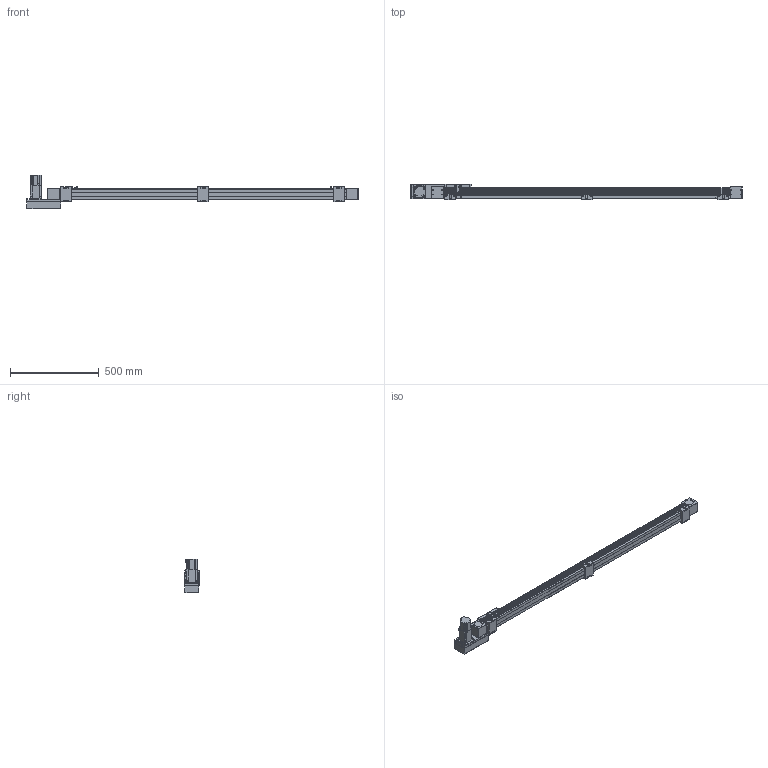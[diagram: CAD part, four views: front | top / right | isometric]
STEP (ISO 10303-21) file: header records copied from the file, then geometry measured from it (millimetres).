
FILE_DESCRIPTION(/* description */ ('STEP AP214'),/* implementation_level */ '2;1');
FILE_NAME(/* name */ 'SK60-P13-S1450-L-T40-C1-N(0)',/* time_stamp */ '2023-04-06T04:11:01+02:00',/* author */ ('License CC BY-ND 4.0'),/* organization */ ('CADENAS'),/* preprocessor_version */ 'ST-DEVELOPER v19.3',/* originating_system */ 'PARTsolutions',/* authorisation */ ' ');
FILE_SCHEMA (('AUTOMOTIVE_DESIGN {1 0 10303 214 3 1 1}'));
Length unit declared in the file: millimetre
Products named in the file (10): SK60-P13-S1450-L-T40-C1-N(0); PSC140-sensor; SK60-S450_seat; SK60-S450-BL-C1_slider; SK60_body3; SK60_body6; SK60-BL_body2; T40-p1; SK60-L_fb; SK60-S1450-L-C1_body
Assembly tree (17 placements, depth 2):
  SK60-P13-S1450-L-T40-C1-N(0)
    PSC140-sensor  x3
    SK60-S450_seat  x3
    SK60-S450-BL-C1_slider
    SK60_body3  x3
    SK60_body6  x2
    SK60-BL_body2  x2
    T40-p1
    SK60-L_fb
    SK60-S1450-L-C1_body
Bounding box: 1870.5 x 90 x 189.7 mm (x, y, z)
Volume: 7129742.1 mm3; surface area: 865740.8 mm2
Topology: 17 solids, 17 shells, 854 faces, 2146 edges, 1413 vertices
Faces by surface type: plane 548, cylinder 278, cone 26, torus 2
Full cylindrical faces by diameter (mm): 2.8 x3, 3.3 x4, 4 x2, 4.5 x30, 4.6 x3, 4.917 x20, 5 x6, 5.478 x4, 5.5 x23, 6.5 x6, 7 x2, 8 x4, 8.5 x4, 9.988 x4, 10 x12, 14 x1, 47 x3, 50 x2
Entity records: 18663 total; most frequent: DIRECTION 3186, CARTESIAN_POINT 3151, ORIENTED_EDGE 2940, EDGE_CURVE 1470, AXIS2_PLACEMENT_3D 1069, LINE 1048, VECTOR 1048, VERTEX_POINT 1034
